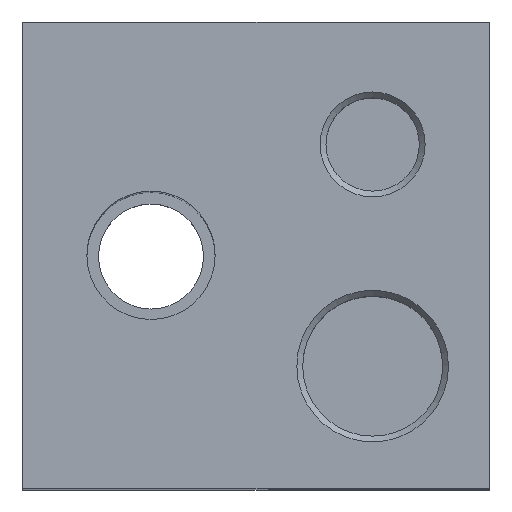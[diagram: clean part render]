
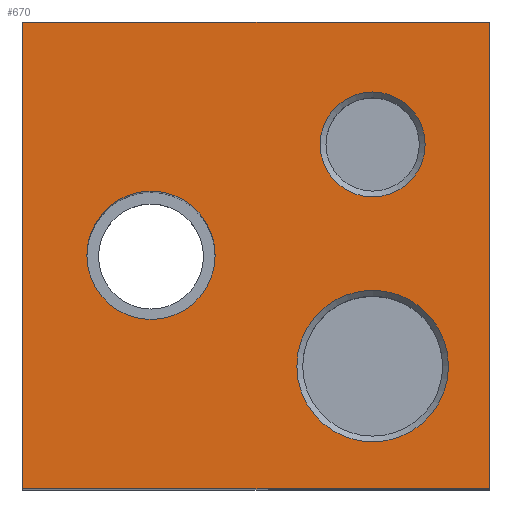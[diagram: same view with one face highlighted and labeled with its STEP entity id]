
A CAD part, top view. The second image highlights one B-rep face of the part: STEP entity #670.
In plain terms, the highlighted planar face has unit normal (0, 0, 1) as drawn and (0, 1, 0) by its records, which use the part's own axes.
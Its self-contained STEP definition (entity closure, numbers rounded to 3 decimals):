
#65=LINE('',#1057,#107);
#66=LINE('',#1059,#108);
#67=LINE('',#1061,#109);
#68=LINE('',#1062,#110);
#107=VECTOR('',#859,40.);
#108=VECTOR('',#860,40.);
#109=VECTOR('',#861,40.);
#110=VECTOR('',#862,40.);
#145=PLANE('',#733);
#177=FACE_BOUND('',#273,.T.);
#178=FACE_BOUND('',#274,.T.);
#179=FACE_BOUND('',#275,.T.);
#212=FACE_OUTER_BOUND('',#272,.T.);
#272=EDGE_LOOP('',(#537,#538,#539,#540));
#273=EDGE_LOOP('',(#541));
#274=EDGE_LOOP('',(#542));
#275=EDGE_LOOP('',(#543));
#333=CIRCLE('',#730,6.5);
#335=CIRCLE('',#734,4.5);
#336=CIRCLE('',#735,5.5);
#370=VERTEX_POINT('',#1049);
#372=VERTEX_POINT('',#1055);
#373=VERTEX_POINT('',#1056);
#374=VERTEX_POINT('',#1058);
#375=VERTEX_POINT('',#1060);
#376=VERTEX_POINT('',#1063);
#377=VERTEX_POINT('',#1065);
#435=EDGE_CURVE('',#370,#370,#333,.T.);
#437=EDGE_CURVE('',#372,#373,#65,.T.);
#438=EDGE_CURVE('',#373,#374,#66,.T.);
#439=EDGE_CURVE('',#374,#375,#67,.T.);
#440=EDGE_CURVE('',#372,#375,#68,.T.);
#441=EDGE_CURVE('',#376,#376,#335,.T.);
#442=EDGE_CURVE('',#377,#377,#336,.T.);
#537=ORIENTED_EDGE('',*,*,#437,.T.);
#538=ORIENTED_EDGE('',*,*,#438,.T.);
#539=ORIENTED_EDGE('',*,*,#439,.T.);
#540=ORIENTED_EDGE('',*,*,#440,.F.);
#541=ORIENTED_EDGE('',*,*,#441,.F.);
#542=ORIENTED_EDGE('',*,*,#442,.T.);
#543=ORIENTED_EDGE('',*,*,#435,.F.);
#670=ADVANCED_FACE('',(#212,#177,#178,#179),#145,.T.);
#730=AXIS2_PLACEMENT_3D('',#1050,#851,#852);
#733=AXIS2_PLACEMENT_3D('',#1054,#857,#858);
#734=AXIS2_PLACEMENT_3D('',#1064,#863,#864);
#735=AXIS2_PLACEMENT_3D('',#1066,#865,#866);
#851=DIRECTION('center_axis',(0.,1.,0.));
#852=DIRECTION('ref_axis',(-1.,0.,0.));
#857=DIRECTION('center_axis',(0.,1.,0.));
#858=DIRECTION('ref_axis',(0.,0.,1.));
#859=DIRECTION('',(1.,0.,0.));
#860=DIRECTION('',(0.,0.,-1.));
#861=DIRECTION('',(-1.,0.,0.));
#862=DIRECTION('',(0.,0.,-1.));
#863=DIRECTION('center_axis',(0.,1.,0.));
#864=DIRECTION('ref_axis',(-1.,0.,0.));
#865=DIRECTION('center_axis',(0.,-1.,0.));
#866=DIRECTION('ref_axis',(1.,0.,0.));
#1049=CARTESIAN_POINT('',(15.5,60.,9.5));
#1050=CARTESIAN_POINT('Origin',(9.,60.,9.5));
#1054=CARTESIAN_POINT('Origin',(-21.,60.,0.));
#1055=CARTESIAN_POINT('',(-21.,60.,20.));
#1056=CARTESIAN_POINT('',(19.,60.,20.));
#1057=CARTESIAN_POINT('',(-21.,60.,20.));
#1058=CARTESIAN_POINT('',(19.,60.,-20.));
#1059=CARTESIAN_POINT('',(19.,60.,0.));
#1060=CARTESIAN_POINT('',(-21.,60.,-20.));
#1061=CARTESIAN_POINT('',(-21.,60.,-20.));
#1062=CARTESIAN_POINT('',(-21.,60.,0.));
#1063=CARTESIAN_POINT('',(13.5,60.,-9.5));
#1064=CARTESIAN_POINT('Origin',(9.,60.,-9.5));
#1065=CARTESIAN_POINT('',(-4.5,60.,0.));
#1066=CARTESIAN_POINT('Origin',(-10.,60.,0.));
